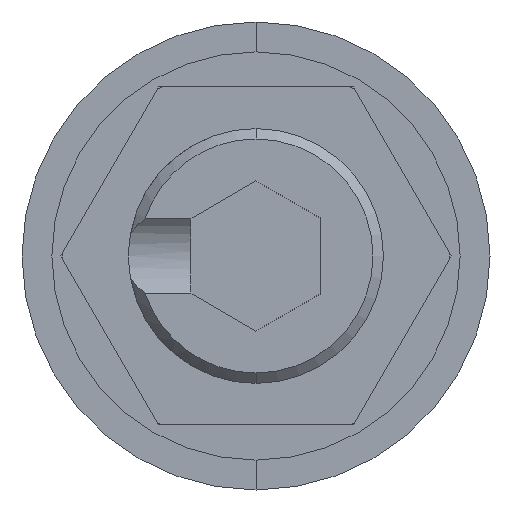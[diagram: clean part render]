
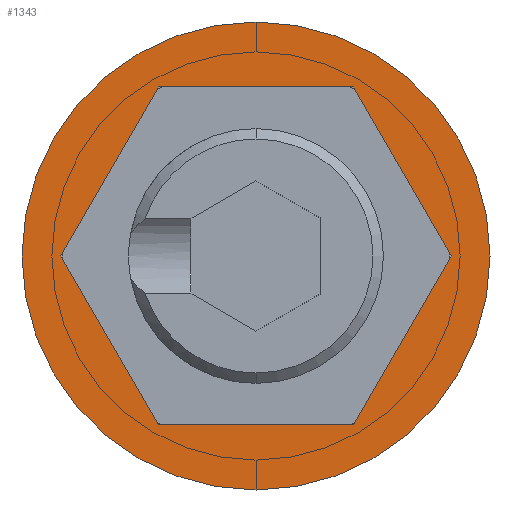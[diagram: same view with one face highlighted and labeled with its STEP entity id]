
A CAD part, front view. The second image highlights one B-rep face of the part: STEP entity #1343.
In plain terms, the highlighted planar face has unit normal (0, -1, 0).
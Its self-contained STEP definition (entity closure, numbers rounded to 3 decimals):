
#41 = DIRECTION ( 'NONE',  ( 0.5, 0., -0.866 ) ) ;
#51 = EDGE_CURVE ( 'NONE', #987, #964, #2030, .T. ) ;
#150 = VERTEX_POINT ( 'NONE', #799 ) ;
#186 = VERTEX_POINT ( 'NONE', #860 ) ;
#191 = ORIENTED_EDGE ( 'NONE', *, *, #1766, .F. ) ;
#193 = VERTEX_POINT ( 'NONE', #862 ) ;
#217 = CARTESIAN_POINT ( 'NONE',  ( -1.876, 0., -3.25 ) ) ;
#356 = CARTESIAN_POINT ( 'NONE',  ( 1.876, 0., -3.25 ) ) ;
#371 = LINE ( 'NONE', #1715, #1441 ) ;
#438 = AXIS2_PLACEMENT_3D ( 'NONE', #565, #687, #558 ) ;
#479 = AXIS2_PLACEMENT_3D ( 'NONE', #1225, #1196, #1972 ) ;
#520 = DIRECTION ( 'NONE',  ( 1., 0., 0. ) ) ;
#541 = CARTESIAN_POINT ( 'NONE',  ( -1.876, 0., -3.25 ) ) ;
#558 = DIRECTION ( 'NONE',  ( 0., 0., -1. ) ) ;
#565 = CARTESIAN_POINT ( 'NONE',  ( 0., 0., 0. ) ) ;
#625 = ORIENTED_EDGE ( 'NONE', *, *, #2143, .T. ) ;
#687 = DIRECTION ( 'NONE',  ( 0., -1., 0. ) ) ;
#725 = CARTESIAN_POINT ( 'NONE',  ( 1.876, 0., 3.25 ) ) ;
#799 = CARTESIAN_POINT ( 'NONE',  ( -3.753, 0., 0. ) ) ;
#822 = VERTEX_POINT ( 'NONE', #1760 ) ;
#860 = CARTESIAN_POINT ( 'NONE',  ( -1.876, 0., 3.25 ) ) ;
#862 = CARTESIAN_POINT ( 'NONE',  ( 0., 0., -4.5 ) ) ;
#884 = ORIENTED_EDGE ( 'NONE', *, *, #1194, .F. ) ;
#934 = VECTOR ( 'NONE', #520, 1000. ) ;
#943 = EDGE_CURVE ( 'NONE', #150, #987, #1409, .T. ) ;
#961 = FACE_BOUND ( 'NONE', #1107, .T. ) ;
#964 = VERTEX_POINT ( 'NONE', #356 ) ;
#977 = CARTESIAN_POINT ( 'NONE',  ( 1.876, 0., -3.25 ) ) ;
#987 = VERTEX_POINT ( 'NONE', #217 ) ;
#1047 = DIRECTION ( 'NONE',  ( -0.5, 0., -0.866 ) ) ;
#1094 = DIRECTION ( 'NONE',  ( 0.5, 0., 0.866 ) ) ;
#1107 = EDGE_LOOP ( 'NONE', ( #1837, #1401, #884, #1634, #191, #1909 ) ) ;
#1113 = EDGE_LOOP ( 'NONE', ( #1797, #625 ) ) ;
#1194 = EDGE_CURVE ( 'NONE', #186, #150, #2243, .T. ) ;
#1196 = DIRECTION ( 'NONE',  ( 0., -1., 0. ) ) ;
#1225 = CARTESIAN_POINT ( 'NONE',  ( 0., 0., 0. ) ) ;
#1232 = DIRECTION ( 'NONE',  ( -0.5, 0., 0.866 ) ) ;
#1257 = EDGE_CURVE ( 'NONE', #193, #1432, #1854, .T. ) ;
#1330 = CARTESIAN_POINT ( 'NONE',  ( 3.753, 0., 0. ) ) ;
#1343 = ADVANCED_FACE ( 'NONE', ( #961, #1750 ), #1735, .T. ) ;
#1386 = CIRCLE ( 'NONE', #438, 4.5 ) ;
#1401 = ORIENTED_EDGE ( 'NONE', *, *, #943, .F. ) ;
#1409 = LINE ( 'NONE', #2270, #1872 ) ;
#1432 = VERTEX_POINT ( 'NONE', #1476 ) ;
#1441 = VECTOR ( 'NONE', #1660, 1000. ) ;
#1474 = EDGE_CURVE ( 'NONE', #2071, #186, #371, .T. ) ;
#1476 = CARTESIAN_POINT ( 'NONE',  ( 0., 0., 4.5 ) ) ;
#1520 = CARTESIAN_POINT ( 'NONE',  ( -1.876, 0., 3.25 ) ) ;
#1634 = ORIENTED_EDGE ( 'NONE', *, *, #1474, .F. ) ;
#1647 = DIRECTION ( 'NONE',  ( 0., 0., -1. ) ) ;
#1660 = DIRECTION ( 'NONE',  ( -1., 0., 0. ) ) ;
#1675 = DIRECTION ( 'NONE',  ( 0., -1., 0. ) ) ;
#1715 = CARTESIAN_POINT ( 'NONE',  ( 1.876, 0., 3.25 ) ) ;
#1735 = PLANE ( 'NONE',  #1738 ) ;
#1738 = AXIS2_PLACEMENT_3D ( 'NONE', #1768, #1675, #1647 ) ;
#1750 = FACE_OUTER_BOUND ( 'NONE', #1113, .T. ) ;
#1760 = CARTESIAN_POINT ( 'NONE',  ( 3.753, 0., 0. ) ) ;
#1766 = EDGE_CURVE ( 'NONE', #822, #2071, #2121, .T. ) ;
#1768 = CARTESIAN_POINT ( 'NONE',  ( 0., 0., 0. ) ) ;
#1796 = VECTOR ( 'NONE', #1094, 1000. ) ;
#1797 = ORIENTED_EDGE ( 'NONE', *, *, #1257, .T. ) ;
#1837 = ORIENTED_EDGE ( 'NONE', *, *, #51, .F. ) ;
#1854 = CIRCLE ( 'NONE', #479, 4.5 ) ;
#1872 = VECTOR ( 'NONE', #41, 1000. ) ;
#1880 = LINE ( 'NONE', #977, #1796 ) ;
#1902 = VECTOR ( 'NONE', #1047, 1000. ) ;
#1909 = ORIENTED_EDGE ( 'NONE', *, *, #2016, .F. ) ;
#1972 = DIRECTION ( 'NONE',  ( 0., 0., -1. ) ) ;
#2016 = EDGE_CURVE ( 'NONE', #964, #822, #1880, .T. ) ;
#2030 = LINE ( 'NONE', #541, #934 ) ;
#2071 = VERTEX_POINT ( 'NONE', #725 ) ;
#2121 = LINE ( 'NONE', #1330, #2136 ) ;
#2136 = VECTOR ( 'NONE', #1232, 1000. ) ;
#2143 = EDGE_CURVE ( 'NONE', #1432, #193, #1386, .T. ) ;
#2243 = LINE ( 'NONE', #1520, #1902 ) ;
#2270 = CARTESIAN_POINT ( 'NONE',  ( -3.753, 0., 0. ) ) ;
